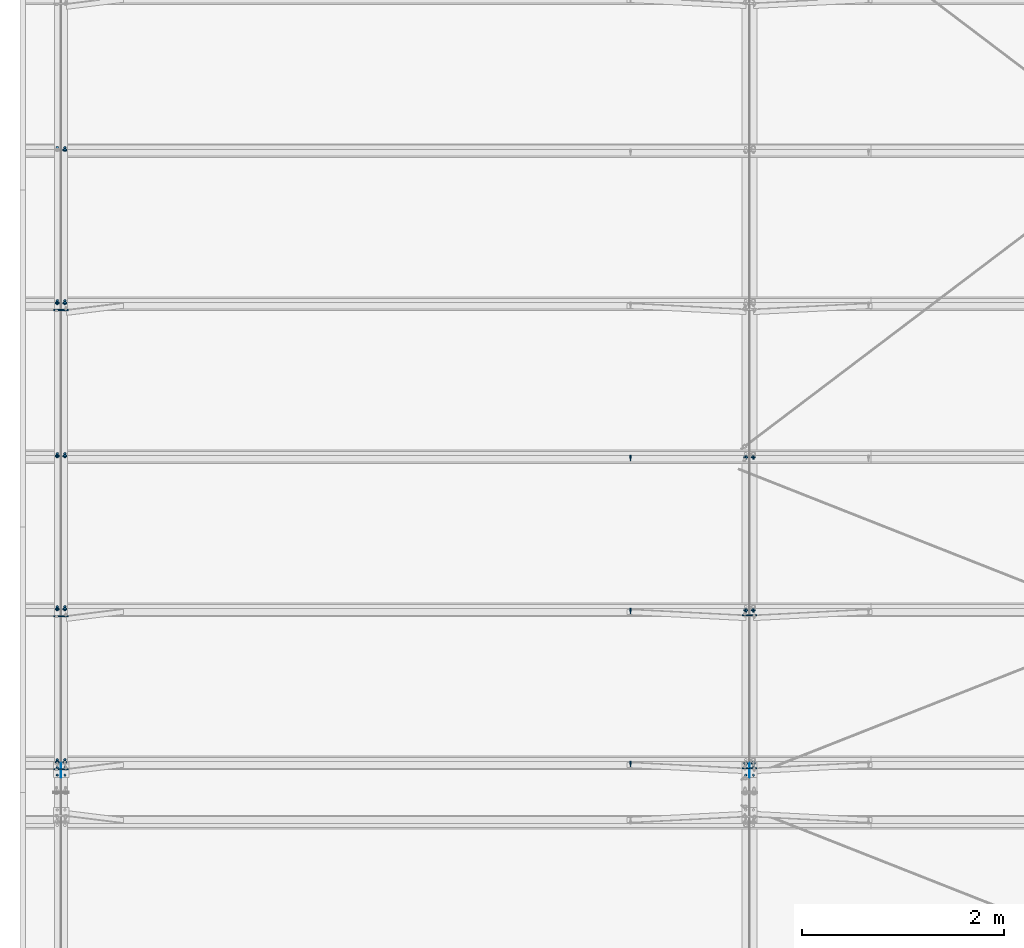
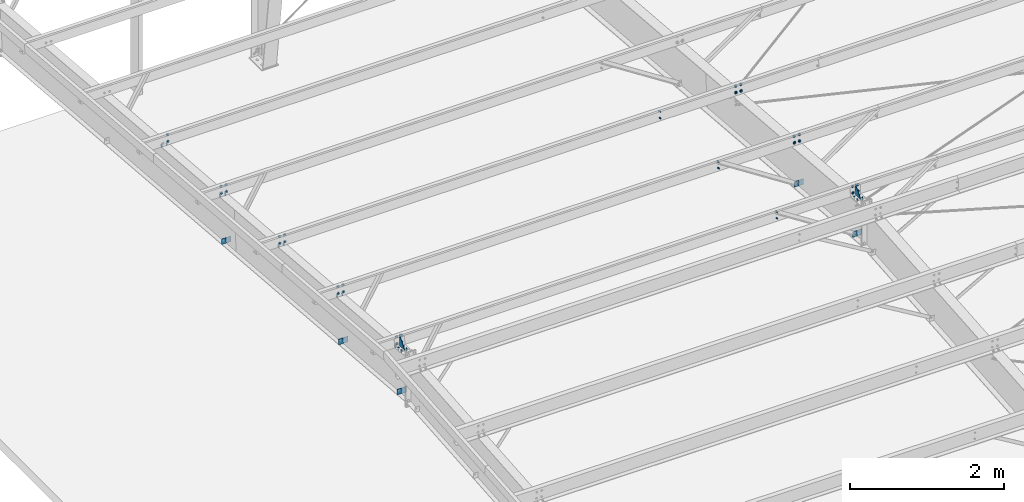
# One storey, part 80 of 185: 25 mechanical fasteners, 12 discrete accessories, 12 elements without a shape of their own.
"""IFC2X3 building model written with IfcOpenShell, lengths in millimetres."""

from ifc_helpers import new_model, si_unit, frame, origin_with_axes, origin_2d_with_axis, place, context, subcontext, project, spatial, polyline, rectangle, circle, outline, extrude, source, transform, mapped, material, type_object, element, aggregate, save


model = new_model("IFC2X3")

# Units and contexts
model_context = context("Model", 3, precision=1e-05, world=origin_with_axes())
body_context = subcontext(model_context, "Body", "Model", "MODEL_VIEW")
ifc_project = project(units=[si_unit("LENGTHUNIT", "METRE", prefix="MILLI"), si_unit("AREAUNIT", "SQUARE_METRE"), si_unit("VOLUMEUNIT", "CUBIC_METRE"), si_unit("MASSUNIT", "GRAM", prefix="KILO"), si_unit("TIMEUNIT", "SECOND"), si_unit("PLANEANGLEUNIT", "RADIAN"), si_unit("SOLIDANGLEUNIT", "STERADIAN"), si_unit("THERMODYNAMICTEMPERATUREUNIT", "DEGREE_CELSIUS"), si_unit("LUMINOUSINTENSITYUNIT", "LUMEN")], contexts=[model_context])

# Site, building, storey
site_placement = place(None, origin_with_axes())
site = spatial("IfcSite", under=ifc_project, at=site_placement, Name="Undefined", CompositionType="ELEMENT")
building_placement = place(site_placement, origin_with_axes())
building = spatial("IfcBuilding", under=site, at=building_placement, Name="Undefined", CompositionType="ELEMENT")
storey_placement = place(building_placement, origin_with_axes())
storey = spatial("IfcBuildingStorey", under=building, at=storey_placement, Name="Undefined", CompositionType="ELEMENT", Elevation=0.0)

# Assembly, mechanical fastener
assembly_1_placement = place(storey_placement, origin_with_axes())
assembly_1 = element("IfcElementAssembly", 1, at=assembly_1_placement, inside=storey, Name="Steel Assembly", AssemblyPlace="NOTDEFINED", PredefinedType="RIGID_FRAME")
ifc_material_1 = material(Name="Undefined")
discrete_accessory_type_1 = type_object("IfcDiscreteAccessoryType", Name="Bolt assembly")
shared_shape_1 = source(origin_with_axes(), body_context, "Body", "SweptSolid", [
    extrude(circle(Radius=7.14374971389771, at=origin_2d_with_axis()), frame((0.0, -1.59000001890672, 0.0), z_axis=(0.0, 1.0, 0.0), x_axis=(1.0, 0.0, 0.0)), (0.0, 0.0, 1.0), 3.3),
    extrude(circle(Radius=13.4937496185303, at=origin_2d_with_axis()), frame((0.0, -5.5587500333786, 0.0), z_axis=(0.0, 1.0, 0.0), x_axis=(1.0, 0.0, 0.0)), (0.0, 0.0, 1.0), 4.0),
    extrude(circle(Radius=22.2250003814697, at=origin_2d_with_axis()), frame((0.0, 1.5900000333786, 0.0), z_axis=(0.0, 1.0, 0.0), x_axis=(1.0, 0.0, 0.0)), (0.0, 0.0, 1.0), 7.9),
    extrude(outline(polyline([(12.8316099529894, 0.0), (6.4158049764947, 11.1125001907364), (-6.4158049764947, 11.1125001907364), (-12.8316099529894, 0.0), (-6.4158049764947, -11.1125001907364), (6.4158049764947, -11.1125001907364), (12.8316099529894, 0.0)])), frame((0.0, 9.5275000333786, 0.0), z_axis=(0.0, 1.0, 0.0), x_axis=(1.0, 0.0, 0.0)), (0.0, 0.0, 1.0), 12.3),
])
mechanical_fastener_1_placement = place(assembly_1_placement, frame((444.500000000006, 22376.470954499, 6847.3180050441), z_axis=(1.0, 0.0, 0.0), x_axis=(0.0, -0.0830454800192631, -0.996545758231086)))
mechanical_fastener_1 = element("IfcMechanicalFastener", 2, at=mechanical_fastener_1_placement, type_object=discrete_accessory_type_1, material=ifc_material_1, Name="Bolt assembly", NominalDiameter=12.6999998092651, NominalLength=38.0999984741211, context=body_context, shape_type="MappedRepresentation", body=[
    mapped(shared_shape_1, transform((0.0, 0.0, 0.0))),
    mapped(shared_shape_1, transform((101.599998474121, 0.0, 0.0))),
])

# Assembly, mechanical fasteners
assembly_2_placement = place(storey_placement, origin_with_axes())
assembly_2 = element("IfcElementAssembly", 3, at=assembly_2_placement, inside=storey, Name="Steel Assembly", AssemblyPlace="NOTDEFINED", PredefinedType="RIGID_FRAME")
mechanical_fastener_2_placement = place(assembly_2_placement, frame((444.500000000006, 20857.735218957, 6973.87931659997), z_axis=(1.0, 0.0, 0.0), x_axis=(0.0, -0.0830454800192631, -0.996545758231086)))
mechanical_fastener_2 = element("IfcMechanicalFastener", 4, at=mechanical_fastener_2_placement, type_object=discrete_accessory_type_1, material=ifc_material_1, Name="Bolt assembly", NominalDiameter=12.6999998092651, NominalLength=38.0999984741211, context=body_context, shape_type="MappedRepresentation", body=[
    mapped(shared_shape_1, transform((0.0, 0.0, 0.0))),
    mapped(shared_shape_1, transform((101.599998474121, 0.0, 0.0))),
])
mechanical_fastener_3_placement = place(assembly_2_placement, frame((368.300000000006, 20857.735218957, 6973.87931659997), z_axis=(1.0, 0.0, 0.0), x_axis=(0.0, -0.0830454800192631, -0.996545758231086)))
mechanical_fastener_3 = element("IfcMechanicalFastener", 5, at=mechanical_fastener_3_placement, type_object=discrete_accessory_type_1, material=ifc_material_1, Name="Bolt assembly", NominalDiameter=12.6999998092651, NominalLength=38.0999984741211, context=body_context, shape_type="MappedRepresentation", body=[
    mapped(shared_shape_1, transform((0.0, 0.0, 0.0))),
    mapped(shared_shape_1, transform((101.599998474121, 0.0, 0.0))),
])

assembly_3_placement = place(storey_placement, origin_with_axes())
assembly_3 = element("IfcElementAssembly", 6, at=assembly_3_placement, inside=storey, Name="Steel Assembly", AssemblyPlace="NOTDEFINED", PredefinedType="RIGID_FRAME")
mechanical_fastener_4_placement = place(assembly_3_placement, frame((444.500000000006, 19338.999483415, 7100.44062815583), z_axis=(1.0, 0.0, 0.0), x_axis=(0.0, -0.0830454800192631, -0.996545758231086)))
mechanical_fastener_4 = element("IfcMechanicalFastener", 7, at=mechanical_fastener_4_placement, type_object=discrete_accessory_type_1, material=ifc_material_1, Name="Bolt assembly", NominalDiameter=12.6999998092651, NominalLength=38.0999984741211, context=body_context, shape_type="MappedRepresentation", body=[
    mapped(shared_shape_1, transform((0.0, 0.0, 0.0))),
    mapped(shared_shape_1, transform((101.599998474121, 0.0, 0.0))),
])
mechanical_fastener_5_placement = place(assembly_3_placement, frame((368.300000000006, 19338.999483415, 7100.44062815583), z_axis=(1.0, 0.0, 0.0), x_axis=(0.0, -0.0830454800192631, -0.996545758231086)))
mechanical_fastener_5 = element("IfcMechanicalFastener", 8, at=mechanical_fastener_5_placement, type_object=discrete_accessory_type_1, material=ifc_material_1, Name="Bolt assembly", NominalDiameter=12.6999998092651, NominalLength=38.0999984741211, context=body_context, shape_type="MappedRepresentation", body=[
    mapped(shared_shape_1, transform((0.0, 0.0, 0.0))),
    mapped(shared_shape_1, transform((101.599998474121, 0.0, 0.0))),
])

assembly_4_placement = place(storey_placement, origin_with_axes())
assembly_4 = element("IfcElementAssembly", 9, at=assembly_4_placement, inside=storey, Name="Steel Assembly", AssemblyPlace="NOTDEFINED", PredefinedType="RIGID_FRAME")
mechanical_fastener_6_placement = place(assembly_4_placement, frame((444.500000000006, 17820.263747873, 7227.00193971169), z_axis=(1.0, 0.0, 0.0), x_axis=(0.0, -0.0830454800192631, -0.996545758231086)))
mechanical_fastener_6 = element("IfcMechanicalFastener", 10, at=mechanical_fastener_6_placement, type_object=discrete_accessory_type_1, material=ifc_material_1, Name="Bolt assembly", NominalDiameter=12.6999998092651, NominalLength=38.0999984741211, context=body_context, shape_type="MappedRepresentation", body=[
    mapped(shared_shape_1, transform((0.0, 0.0, 0.0))),
    mapped(shared_shape_1, transform((101.599998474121, 0.0, 0.0))),
])
mechanical_fastener_7_placement = place(assembly_4_placement, frame((368.300000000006, 17820.263747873, 7227.00193971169), z_axis=(1.0, 0.0, 0.0), x_axis=(0.0, -0.0830454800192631, -0.996545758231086)))
mechanical_fastener_7 = element("IfcMechanicalFastener", 11, at=mechanical_fastener_7_placement, type_object=discrete_accessory_type_1, material=ifc_material_1, Name="Bolt assembly", NominalDiameter=12.6999998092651, NominalLength=38.0999984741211, context=body_context, shape_type="MappedRepresentation", body=[
    mapped(shared_shape_1, transform((0.0, 0.0, 0.0))),
    mapped(shared_shape_1, transform((101.599998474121, 0.0, 0.0))),
])

assembly_5_placement = place(storey_placement, origin_with_axes())
assembly_5 = element("IfcElementAssembly", 12, at=assembly_5_placement, inside=storey, Name="Steel Assembly", AssemblyPlace="NOTDEFINED", PredefinedType="RIGID_FRAME")
mechanical_fastener_8_placement = place(assembly_5_placement, frame((444.500000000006, 16301.5280123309, 7353.56325126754), z_axis=(1.0, 0.0, 0.0), x_axis=(0.0, -0.0830454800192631, -0.996545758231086)))
mechanical_fastener_8 = element("IfcMechanicalFastener", 13, at=mechanical_fastener_8_placement, type_object=discrete_accessory_type_1, material=ifc_material_1, Name="Bolt assembly", NominalDiameter=12.6999998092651, NominalLength=38.0999984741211, context=body_context, shape_type="MappedRepresentation", body=[
    mapped(shared_shape_1, transform((0.0, 0.0, 0.0))),
    mapped(shared_shape_1, transform((101.599998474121, 0.0, 0.0))),
])
mechanical_fastener_9_placement = place(assembly_5_placement, frame((368.300000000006, 16301.5280123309, 7353.56325126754), z_axis=(1.0, 0.0, 0.0), x_axis=(0.0, -0.0830454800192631, -0.996545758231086)))
mechanical_fastener_9 = element("IfcMechanicalFastener", 14, at=mechanical_fastener_9_placement, type_object=discrete_accessory_type_1, material=ifc_material_1, Name="Bolt assembly", NominalDiameter=12.6999998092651, NominalLength=38.0999984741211, context=body_context, shape_type="MappedRepresentation", body=[
    mapped(shared_shape_1, transform((0.0, 0.0, 0.0))),
    mapped(shared_shape_1, transform((101.599998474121, 0.0, 0.0))),
])

# Assembly, mechanical fastener
assembly_6_placement = place(storey_placement, origin_with_axes())
assembly_6 = element("IfcElementAssembly", 15, at=assembly_6_placement, inside=storey, Name="Steel Assembly", AssemblyPlace="NOTDEFINED", PredefinedType="RIGID_FRAME")
mechanical_fastener_10_placement = place(assembly_6_placement, frame((7200.9, 19338.9994834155, 7100.44062811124), z_axis=(-1.0, 0.0, 0.0), x_axis=(0.0, -0.0830454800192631, -0.996545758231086)))
mechanical_fastener_10 = element("IfcMechanicalFastener", 16, at=mechanical_fastener_10_placement, type_object=discrete_accessory_type_1, material=ifc_material_1, Name="Bolt assembly", NominalDiameter=12.6999998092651, NominalLength=38.0999984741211, context=body_context, shape_type="MappedRepresentation", body=[
    mapped(shared_shape_1, transform((0.0, 0.0, 0.0))),
    mapped(shared_shape_1, transform((101.599998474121, 0.0, 0.0))),
])
aggregate(assembly_6, [mechanical_fastener_10])

# Mechanical fastener
mechanical_fastener_11_placement = place(assembly_3_placement, frame((7277.1, 19338.9994834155, 7100.44062811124), z_axis=(-1.0, 0.0, 0.0), x_axis=(0.0, -0.0830454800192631, -0.996545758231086)))
mechanical_fastener_11 = element("IfcMechanicalFastener", 17, at=mechanical_fastener_11_placement, type_object=discrete_accessory_type_1, material=ifc_material_1, Name="Bolt assembly", NominalDiameter=12.6999998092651, NominalLength=38.0999984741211, context=body_context, shape_type="MappedRepresentation", body=[
    mapped(shared_shape_1, transform((0.0, 0.0, 0.0))),
    mapped(shared_shape_1, transform((101.599998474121, 0.0, 0.0))),
])

# Assembly, mechanical fastener
assembly_7_placement = place(storey_placement, origin_with_axes())
assembly_7 = element("IfcElementAssembly", 18, at=assembly_7_placement, inside=storey, Name="Steel Assembly", AssemblyPlace="NOTDEFINED", PredefinedType="RIGID_FRAME")
mechanical_fastener_12_placement = place(assembly_7_placement, frame((7200.9, 17820.2637478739, 7227.00193965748), z_axis=(-1.0, 0.0, 0.0), x_axis=(0.0, -0.0830454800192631, -0.996545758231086)))
mechanical_fastener_12 = element("IfcMechanicalFastener", 19, at=mechanical_fastener_12_placement, type_object=discrete_accessory_type_1, material=ifc_material_1, Name="Bolt assembly", NominalDiameter=12.6999998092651, NominalLength=38.0999984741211, context=body_context, shape_type="MappedRepresentation", body=[
    mapped(shared_shape_1, transform((0.0, 0.0, 0.0))),
    mapped(shared_shape_1, transform((101.599998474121, 0.0, 0.0))),
])
aggregate(assembly_7, [mechanical_fastener_12])

# Mechanical fastener
mechanical_fastener_13_placement = place(assembly_4_placement, frame((7277.1, 17820.2637478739, 7227.00193965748), z_axis=(-1.0, 0.0, 0.0), x_axis=(0.0, -0.0830454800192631, -0.996545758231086)))
mechanical_fastener_13 = element("IfcMechanicalFastener", 20, at=mechanical_fastener_13_placement, type_object=discrete_accessory_type_1, material=ifc_material_1, Name="Bolt assembly", NominalDiameter=12.6999998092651, NominalLength=38.0999984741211, context=body_context, shape_type="MappedRepresentation", body=[
    mapped(shared_shape_1, transform((0.0, 0.0, 0.0))),
    mapped(shared_shape_1, transform((101.599998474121, 0.0, 0.0))),
])

# Assembly, mechanical fastener
assembly_8_placement = place(storey_placement, origin_with_axes())
assembly_8 = element("IfcElementAssembly", 21, at=assembly_8_placement, inside=storey, Name="Steel Assembly", AssemblyPlace="NOTDEFINED", PredefinedType="RIGID_FRAME")
mechanical_fastener_14_placement = place(assembly_8_placement, frame((7200.9, 16301.5280123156, 7353.56325121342), z_axis=(-1.0, 0.0, 0.0), x_axis=(0.0, -0.0830454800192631, -0.996545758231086)))
mechanical_fastener_14 = element("IfcMechanicalFastener", 22, at=mechanical_fastener_14_placement, type_object=discrete_accessory_type_1, material=ifc_material_1, Name="Bolt assembly", NominalDiameter=12.6999998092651, NominalLength=38.0999984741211, context=body_context, shape_type="MappedRepresentation", body=[
    mapped(shared_shape_1, transform((0.0, 0.0, 0.0))),
    mapped(shared_shape_1, transform((101.599998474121, 0.0, 0.0))),
])
aggregate(assembly_8, [mechanical_fastener_14])

# Mechanical fastener
mechanical_fastener_15_placement = place(assembly_5_placement, frame((7277.1, 16301.5280123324, 7353.56325120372), z_axis=(-1.0, 0.0, 0.0), x_axis=(0.0, -0.0830454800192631, -0.996545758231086)))
mechanical_fastener_15 = element("IfcMechanicalFastener", 23, at=mechanical_fastener_15_placement, type_object=discrete_accessory_type_1, material=ifc_material_1, Name="Bolt assembly", NominalDiameter=12.6999998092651, NominalLength=38.0999984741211, context=body_context, shape_type="MappedRepresentation", body=[
    mapped(shared_shape_1, transform((0.0, 0.0, 0.0))),
    mapped(shared_shape_1, transform((101.599998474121, 0.0, 0.0))),
])

# Assembly, discrete accessory
assembly_9_placement = place(storey_placement, origin_with_axes())
assembly_9 = element("IfcElementAssembly", 24, at=assembly_9_placement, inside=storey, Name="Steel Assembly", AssemblyPlace="NOTDEFINED", PredefinedType="RIGID_FRAME")
ifc_material_2 = material(Name="STEEL/55")
discrete_accessory_type_2 = type_object("IfcDiscreteAccessoryType", Name="PLATE")
discrete_accessory_1_placement = place(assembly_9_placement, frame((7239.0, 16150.181777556, 7219.61919675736), z_axis=(1.0, 0.0, 0.0), x_axis=(0.0, 0.996545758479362, -0.0830454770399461)))
discrete_accessory_1 = element("IfcDiscreteAccessory", 25, at=discrete_accessory_1_placement, type_object=discrete_accessory_type_2, material=ifc_material_2, Name="PLATE", ObjectType="FL1/4\"X5 1/4\"", context=body_context, shape_type="SweptSolid", body=[
    extrude(outline(polyline([(0.0, 0.0), (133.350006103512, 3.70164343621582e-10), (133.350006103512, 190.500000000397), (0.0, 0.0)])), frame((0.0, -9.09494701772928e-13, -3.2), z_axis=(0.0, 0.0, 1.0), x_axis=(1.0, 0.0, 0.0)), (0.0, 0.0, 1.0), 6.4),
])

assembly_10_placement = place(storey_placement, origin_with_axes())
assembly_10 = element("IfcElementAssembly", 26, at=assembly_10_placement, inside=storey, Name="Steel Assembly", AssemblyPlace="NOTDEFINED", PredefinedType="RIGID_FRAME")
discrete_accessory_2_placement = place(assembly_10_placement, frame((406.400000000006, 16150.1817775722, 7219.61919681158), z_axis=(1.0, 0.0, 0.0), x_axis=(0.0, 0.996545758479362, -0.0830454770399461)))
discrete_accessory_2 = element("IfcDiscreteAccessory", 27, at=discrete_accessory_2_placement, type_object=discrete_accessory_type_2, material=ifc_material_2, Name="PLATE", ObjectType="FL1/4\"X5 1/4\"", context=body_context, shape_type="SweptSolid", body=[
    extrude(outline(polyline([(0.0, 0.0), (133.350006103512, 3.70164343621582e-10), (133.350006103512, 190.500000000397), (0.0, 0.0)])), frame((0.0, -9.09494701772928e-13, -3.2), z_axis=(0.0, 0.0, 1.0), x_axis=(1.0, 0.0, 0.0)), (0.0, 0.0, 1.0), 6.4),
])

# Assembly, discrete accessories
assembly_11_placement = place(storey_placement, origin_with_axes())
assembly_11 = element("IfcElementAssembly", 28, at=assembly_11_placement, inside=storey, Name="Steel Assembly", AssemblyPlace="NOTDEFINED", PredefinedType="RIGID_FRAME")
discrete_accessory_type_3 = type_object("IfcDiscreteAccessoryType", Name="FLANGE BRACE FLIP")
discrete_accessory_3_placement = place(assembly_11_placement, frame((408.108150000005, 16234.5442340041, 6529.19086769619), z_axis=(0.0, -0.0830454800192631, -0.996545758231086), x_axis=(1.0, 0.0, 0.0)))
discrete_accessory_3 = element("IfcDiscreteAccessory", 29, at=discrete_accessory_3_placement, type_object=discrete_accessory_type_3, material=ifc_material_2, Name="FLANGE BRACE FLIP", ObjectType="PL1/8\"X2 3/4\"", context=body_context, shape_type="SweptSolid", body=[
    extrude(rectangle(XDim=3.416, YDim=85.725, at=origin_2d_with_axis()), frame((69.8499999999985, 0.0, 0.0), z_axis=(-1.0, 0.0, 0.0), x_axis=(0.0, -1.0, 0.0)), (0.0, 0.0, 1.0), 69.9),
])
discrete_accessory_4_placement = place(assembly_11_placement, frame((404.691850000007, 16234.5442340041, 6529.19086769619), z_axis=(0.0, -0.0830454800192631, -0.996545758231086), x_axis=(-1.0, 0.0, 0.0)))
discrete_accessory_4 = element("IfcDiscreteAccessory", 30, at=discrete_accessory_4_placement, type_object=discrete_accessory_type_3, material=ifc_material_2, Name="FLANGE BRACE FLIP", ObjectType="PL1/8\"X2 3/4\"", context=body_context, shape_type="SweptSolid", body=[
    extrude(rectangle(XDim=3.416, YDim=85.725, at=origin_2d_with_axis()), frame((69.8499999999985, 0.0, 0.0), z_axis=(-1.0, 0.0, 0.0), x_axis=(0.0, -1.0, 0.0)), (0.0, 0.0, 1.0), 69.9),
])
discrete_accessory_5_placement = place(assembly_11_placement, frame((408.108150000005, 17753.2799695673, 6402.62955639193), z_axis=(0.0, -0.0830454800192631, -0.996545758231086), x_axis=(1.0, 0.0, 0.0)))
discrete_accessory_5 = element("IfcDiscreteAccessory", 31, at=discrete_accessory_5_placement, type_object=discrete_accessory_type_3, material=ifc_material_2, Name="FLANGE BRACE FLIP", ObjectType="PL1/8\"X2 3/4\"", context=body_context, shape_type="SweptSolid", body=[
    extrude(rectangle(XDim=3.416, YDim=85.725, at=origin_2d_with_axis()), frame((69.8499999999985, 0.0, 0.0), z_axis=(-1.0, 0.0, 0.0), x_axis=(0.0, -1.0, 0.0)), (0.0, 0.0, 1.0), 69.9),
])
discrete_accessory_6_placement = place(assembly_11_placement, frame((404.691850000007, 17753.2799695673, 6402.62955639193), z_axis=(0.0, -0.0830454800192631, -0.996545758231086), x_axis=(-1.0, 0.0, 0.0)))
discrete_accessory_6 = element("IfcDiscreteAccessory", 32, at=discrete_accessory_6_placement, type_object=discrete_accessory_type_3, material=ifc_material_2, Name="FLANGE BRACE FLIP", ObjectType="PL1/8\"X2 3/4\"", context=body_context, shape_type="SweptSolid", body=[
    extrude(rectangle(XDim=3.416, YDim=85.725, at=origin_2d_with_axis()), frame((69.8499999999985, 0.0, 0.0), z_axis=(-1.0, 0.0, 0.0), x_axis=(0.0, -1.0, 0.0)), (0.0, 0.0, 1.0), 69.9),
])
discrete_accessory_7_placement = place(assembly_11_placement, frame((408.108150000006, 20790.7514406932, 6149.50693378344), z_axis=(0.0, -0.0830454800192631, -0.996545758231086), x_axis=(1.0, 0.0, 0.0)))
discrete_accessory_7 = element("IfcDiscreteAccessory", 33, at=discrete_accessory_7_placement, type_object=discrete_accessory_type_3, material=ifc_material_2, Name="FLANGE BRACE FLIP", ObjectType="PL1/8\"X2 3/4\"", context=body_context, shape_type="SweptSolid", body=[
    extrude(rectangle(XDim=3.416, YDim=85.725, at=origin_2d_with_axis()), frame((69.8499999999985, 0.0, 0.0), z_axis=(-1.0, 0.0, 0.0), x_axis=(0.0, -1.0, 0.0)), (0.0, 0.0, 1.0), 69.8),
])
discrete_accessory_8_placement = place(assembly_11_placement, frame((404.691850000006, 20790.7514406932, 6149.50693378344), z_axis=(0.0, -0.0830454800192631, -0.996545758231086), x_axis=(-1.0, 0.0, 0.0)))
discrete_accessory_8 = element("IfcDiscreteAccessory", 34, at=discrete_accessory_8_placement, type_object=discrete_accessory_type_3, material=ifc_material_2, Name="FLANGE BRACE FLIP", ObjectType="PL1/8\"X2 3/4\"", context=body_context, shape_type="SweptSolid", body=[
    extrude(rectangle(XDim=3.416, YDim=85.725, at=origin_2d_with_axis()), frame((69.8499999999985, 0.0, 0.0), z_axis=(-1.0, 0.0, 0.0), x_axis=(0.0, -1.0, 0.0)), (0.0, 0.0, 1.0), 69.8),
])
aggregate(assembly_11, [discrete_accessory_3, discrete_accessory_4, discrete_accessory_5, discrete_accessory_6, discrete_accessory_7, discrete_accessory_8])

assembly_12_placement = place(storey_placement, origin_with_axes())
assembly_12 = element("IfcElementAssembly", 35, at=assembly_12_placement, inside=storey, Name="Steel Assembly", AssemblyPlace="NOTDEFINED", PredefinedType="RIGID_FRAME")
discrete_accessory_9_placement = place(assembly_12_placement, frame((7237.29185, 16242.8487656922, 6628.84524772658), z_axis=(0.0, 0.0830454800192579, 0.996545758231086), x_axis=(-1.0, 0.0, 0.0)))
discrete_accessory_9 = element("IfcDiscreteAccessory", 36, at=discrete_accessory_9_placement, type_object=discrete_accessory_type_3, material=ifc_material_2, Name="FLANGE BRACE FLIP", ObjectType="PL1/8\"X2 3/4\"", context=body_context, shape_type="SweptSolid", body=[
    extrude(rectangle(XDim=3.416, YDim=85.725, at=origin_2d_with_axis()), frame((69.8499999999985, 0.0, 0.0), z_axis=(-1.0, 0.0, 0.0), x_axis=(0.0, -1.0, 0.0)), (0.0, 0.0, 1.0), 69.9),
])
discrete_accessory_10_placement = place(assembly_12_placement, frame((7240.70815, 16242.8487656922, 6628.84524772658), z_axis=(0.0, 0.0830454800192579, 0.996545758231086), x_axis=(1.0, 0.0, 0.0)))
discrete_accessory_10 = element("IfcDiscreteAccessory", 37, at=discrete_accessory_10_placement, type_object=discrete_accessory_type_3, material=ifc_material_2, Name="FLANGE BRACE FLIP", ObjectType="PL1/8\"X2 3/4\"", context=body_context, shape_type="SweptSolid", body=[
    extrude(rectangle(XDim=3.416, YDim=85.725, at=origin_2d_with_axis()), frame((69.8499999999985, 0.0, 0.0), z_axis=(-1.0, 0.0, 0.0), x_axis=(0.0, -1.0, 0.0)), (0.0, 0.0, 1.0), 69.9),
])
discrete_accessory_11_placement = place(assembly_12_placement, frame((7237.29185, 17761.584501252, 6502.28393643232), z_axis=(0.0, 0.0830454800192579, 0.996545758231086), x_axis=(-1.0, 0.0, 0.0)))
discrete_accessory_11 = element("IfcDiscreteAccessory", 38, at=discrete_accessory_11_placement, type_object=discrete_accessory_type_3, material=ifc_material_2, Name="FLANGE BRACE FLIP", ObjectType="PL1/8\"X2 3/4\"", context=body_context, shape_type="SweptSolid", body=[
    extrude(rectangle(XDim=3.416, YDim=85.725, at=origin_2d_with_axis()), frame((69.8499999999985, 0.0, 0.0), z_axis=(-1.0, 0.0, 0.0), x_axis=(0.0, -1.0, 0.0)), (0.0, 0.0, 1.0), 69.9),
])
discrete_accessory_12_placement = place(assembly_12_placement, frame((7240.70815, 17761.584501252, 6502.28393643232), z_axis=(0.0, 0.0830454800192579, 0.996545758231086), x_axis=(1.0, 0.0, 0.0)))
discrete_accessory_12 = element("IfcDiscreteAccessory", 39, at=discrete_accessory_12_placement, type_object=discrete_accessory_type_3, material=ifc_material_2, Name="FLANGE BRACE FLIP", ObjectType="PL1/8\"X2 3/4\"", context=body_context, shape_type="SweptSolid", body=[
    extrude(rectangle(XDim=3.416, YDim=85.725, at=origin_2d_with_axis()), frame((69.8499999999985, 0.0, 0.0), z_axis=(-1.0, 0.0, 0.0), x_axis=(0.0, -1.0, 0.0)), (0.0, 0.0, 1.0), 69.9),
])
aggregate(assembly_12, [discrete_accessory_9, discrete_accessory_10, discrete_accessory_11, discrete_accessory_12])

# Mechanical fastener
shared_shape_2 = source(origin_with_axes(), body_context, "Body", "SweptSolid", [
    extrude(circle(Radius=7.14374971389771, at=origin_2d_with_axis()), frame((0.0, -0.0238014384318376, 0.0), z_axis=(0.0, 1.0, 0.0), x_axis=(1.0, 0.0, 0.0)), (0.0, 0.0, 1.0), 8.0),
    extrude(circle(Radius=7.14374971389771, at=origin_2d_with_axis()), frame((0.0, -6.24999999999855, 0.0), z_axis=(0.0, 1.0, 0.0), x_axis=(1.0, 0.0, 0.0)), (0.0, 0.0, 1.0), 6.4),
    extrude(outline(polyline([(10.9985221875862, 0.0), (5.4992610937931, 9.52499961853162), (-5.4992610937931, 9.52499961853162), (-10.9985221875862, 0.0), (-5.4992610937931, -9.52499961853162), (5.4992610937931, -9.52499961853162), (10.9985221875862, 0.0)])), frame((0.0, -15.8750000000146, 0.0), z_axis=(0.0, 1.0, 0.0), x_axis=(1.0, 0.0, 0.0)), (0.0, 0.0, 1.0), 9.5),
    extrude(circle(Radius=6.34999990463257, at=origin_2d_with_axis()), frame((0.0, -6.34999953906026, 0.0), z_axis=(0.0, 1.0, 0.0), x_axis=(1.0, 0.0, 0.0)), (0.0, 0.0, 1.0), 38.1),
    extrude(outline(polyline([(12.8316099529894, 0.0), (6.4158049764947, 11.1125001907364), (-6.4158049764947, 11.1125001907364), (-12.8316099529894, 0.0), (-6.4158049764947, -11.1125001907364), (6.4158049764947, -11.1125001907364), (12.8316099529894, 0.0)])), frame((0.0, 7.95019856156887, 0.0), z_axis=(0.0, 1.0, 0.0), x_axis=(1.0, 0.0, 0.0)), (0.0, 0.0, 1.0), 12.3),
])
mechanical_fastener_16_placement = place(assembly_9_placement, frame((7239.0, 16250.9034877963, 7204.85371043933), z_axis=(1.0, 0.0, 0.0), x_axis=(0.0, -0.996545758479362, 0.0830454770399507)))
mechanical_fastener_16 = element("IfcMechanicalFastener", 40, at=mechanical_fastener_16_placement, type_object=discrete_accessory_type_1, material=ifc_material_1, Name="Bolt assembly", NominalDiameter=12.6999998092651, NominalLength=38.0999984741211, context=body_context, shape_type="MappedRepresentation", body=[
    mapped(shared_shape_2, transform((0.0, 0.0, -38.0999984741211))),
    mapped(shared_shape_2, transform((76.1999969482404, -1.38243194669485e-10, -38.0999984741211))),
    mapped(shared_shape_2, transform((0.0, 0.0, 38.0999984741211))),
    mapped(shared_shape_2, transform((76.1999969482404, -1.38243194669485e-10, 38.0999984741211))),
])

aggregate(assembly_9, [mechanical_fastener_16, discrete_accessory_1])

shared_shape_3 = source(origin_with_axes(), body_context, "Body", "SweptSolid", [
    extrude(circle(Radius=7.14374971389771, at=origin_2d_with_axis()), frame((0.0, -1.4900000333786, 0.0), z_axis=(0.0, 1.0, 0.0), x_axis=(1.0, 0.0, 0.0)), (0.0, 0.0, 1.0), 3.2),
    extrude(circle(Radius=7.14374971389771, at=origin_2d_with_axis()), frame((0.0, -1.4900000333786, 0.0), z_axis=(0.0, 1.0, 0.0), x_axis=(1.0, 0.0, 0.0)), (0.0, 0.0, 1.0), 3.2),
    extrude(outline(polyline([(10.9985221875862, 0.0), (5.4992610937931, 9.52499961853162), (-5.4992610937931, 9.52499961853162), (-10.9985221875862, 0.0), (-5.4992610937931, -9.52499961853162), (5.4992610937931, -9.52499961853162), (10.9985221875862, 0.0)])), frame((0.0, -11.1149996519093, 0.0), z_axis=(0.0, 1.0, 0.0), x_axis=(1.0, 0.0, 0.0)), (0.0, 0.0, 1.0), 9.5),
    extrude(circle(Radius=6.34999990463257, at=origin_2d_with_axis()), frame((0.0, -1.59000001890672, 0.0), z_axis=(0.0, 1.0, 0.0), x_axis=(1.0, 0.0, 0.0)), (0.0, 0.0, 1.0), 38.1),
    extrude(outline(polyline([(12.8316099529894, 0.0), (6.4158049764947, 11.1125001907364), (-6.4158049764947, 11.1125001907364), (-12.8316099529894, 0.0), (-6.4158049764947, -11.1125001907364), (6.4158049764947, -11.1125001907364), (12.8316099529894, 0.0)])), frame((0.0, 1.5900000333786, 0.0), z_axis=(0.0, 1.0, 0.0), x_axis=(1.0, 0.0, 0.0)), (0.0, 0.0, 1.0), 12.3),
])
mechanical_fastener_17_placement = place(assembly_5_placement, frame((6057.9, 16301.5280123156, 7353.56325121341), z_axis=(-1.0, 0.0, 0.0), x_axis=(0.0, -0.0830454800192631, -0.996545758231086)))
mechanical_fastener_17 = element("IfcMechanicalFastener", 41, at=mechanical_fastener_17_placement, type_object=discrete_accessory_type_1, material=ifc_material_1, Name="Bolt assembly", NominalDiameter=12.6999998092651, NominalLength=38.0999984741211, context=body_context, shape_type="MappedRepresentation", body=[
    mapped(shared_shape_3, transform((0.0, 0.0, 0.0))),
    mapped(shared_shape_3, transform((101.599998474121, 0.0, 0.0))),
])

mechanical_fastener_18_placement = place(assembly_4_placement, frame((6057.9, 17820.2637478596, 7227.0019396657), z_axis=(-1.0, 0.0, 0.0), x_axis=(0.0, -0.0830454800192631, -0.996545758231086)))
mechanical_fastener_18 = element("IfcMechanicalFastener", 42, at=mechanical_fastener_18_placement, type_object=discrete_accessory_type_1, material=ifc_material_1, Name="Bolt assembly", NominalDiameter=12.6999998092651, NominalLength=38.0999984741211, context=body_context, shape_type="MappedRepresentation", body=[
    mapped(shared_shape_3, transform((0.0, 0.0, 0.0))),
    mapped(shared_shape_3, transform((101.599998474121, 0.0, 0.0))),
])

mechanical_fastener_19_placement = place(assembly_3_placement, frame((6057.9, 19338.9994834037, 7100.44062811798), z_axis=(-1.0, 0.0, 0.0), x_axis=(0.0, -0.0830454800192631, -0.996545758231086)))
mechanical_fastener_19 = element("IfcMechanicalFastener", 43, at=mechanical_fastener_19_placement, type_object=discrete_accessory_type_1, material=ifc_material_1, Name="Bolt assembly", NominalDiameter=12.6999998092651, NominalLength=38.0999984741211, context=body_context, shape_type="MappedRepresentation", body=[
    mapped(shared_shape_3, transform((0.0, 0.0, 0.0))),
    mapped(shared_shape_3, transform((101.599998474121, 0.0, 0.0))),
])

shared_shape_4 = source(origin_with_axes(), body_context, "Body", "SweptSolid", [
    extrude(circle(Radius=7.14374971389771, at=origin_2d_with_axis()), frame((0.0, -0.1, 0.0), z_axis=(0.0, 1.0, 0.0), x_axis=(1.0, 0.0, 0.0)), (0.0, 0.0, 1.0), 6.5),
    extrude(circle(Radius=7.14374971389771, at=origin_2d_with_axis()), frame((0.0, -6.24999999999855, 0.0), z_axis=(0.0, 1.0, 0.0), x_axis=(1.0, 0.0, 0.0)), (0.0, 0.0, 1.0), 6.4),
    extrude(outline(polyline([(10.9985221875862, 0.0), (5.4992610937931, 9.52499961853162), (-5.4992610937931, 9.52499961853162), (-10.9985221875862, 0.0), (-5.4992610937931, -9.52499961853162), (5.4992610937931, -9.52499961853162), (10.9985221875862, 0.0)])), frame((0.0, -15.8750000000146, 0.0), z_axis=(0.0, 1.0, 0.0), x_axis=(1.0, 0.0, 0.0)), (0.0, 0.0, 1.0), 9.5),
    extrude(circle(Radius=6.34999990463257, at=origin_2d_with_axis()), frame((0.0, -6.34999953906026, 0.0), z_axis=(0.0, 1.0, 0.0), x_axis=(1.0, 0.0, 0.0)), (0.0, 0.0, 1.0), 38.1),
    extrude(outline(polyline([(12.8316099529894, 0.0), (6.4158049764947, 11.1125001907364), (-6.4158049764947, 11.1125001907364), (-12.8316099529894, 0.0), (-6.4158049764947, -11.1125001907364), (6.4158049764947, -11.1125001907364), (12.8316099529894, 0.0)])), frame((0.0, 6.35000000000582, 0.0), z_axis=(0.0, 1.0, 0.0), x_axis=(1.0, 0.0, 0.0)), (0.0, 0.0, 1.0), 12.3),
])
mechanical_fastener_20_placement = place(assembly_10_placement, frame((406.400000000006, 16250.9034878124, 7204.85371049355), z_axis=(1.0, 0.0, 0.0), x_axis=(0.0, -0.996545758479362, 0.0830454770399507)))
mechanical_fastener_20 = element("IfcMechanicalFastener", 44, at=mechanical_fastener_20_placement, type_object=discrete_accessory_type_1, material=ifc_material_1, Name="Bolt assembly", NominalDiameter=12.6999998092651, NominalLength=38.0999984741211, context=body_context, shape_type="MappedRepresentation", body=[
    mapped(shared_shape_4, transform((0.0, 0.0, -38.0999984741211))),
    mapped(shared_shape_4, transform((76.1999969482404, -1.38243194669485e-10, -38.0999984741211))),
    mapped(shared_shape_4, transform((0.0, 0.0, 38.0999984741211))),
    mapped(shared_shape_4, transform((76.1999969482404, -1.38243194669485e-10, 38.0999984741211))),
])

aggregate(assembly_10, [mechanical_fastener_20, discrete_accessory_2])

shared_shape_5 = source(origin_with_axes(), body_context, "Body", "SweptSolid", [
    extrude(circle(Radius=7.14374971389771, at=origin_2d_with_axis()), frame((0.0, -0.1, 0.0), z_axis=(0.0, 1.0, 0.0), x_axis=(1.0, 0.0, 0.0)), (0.0, 0.0, 1.0), 6.5),
    extrude(circle(Radius=7.14374971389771, at=origin_2d_with_axis()), frame((0.0, -3.08000006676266, 0.0), z_axis=(0.0, 1.0, 0.0), x_axis=(1.0, 0.0, 0.0)), (0.0, 0.0, 1.0), 3.2),
    extrude(outline(polyline([(10.9985221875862, 0.0), (5.4992610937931, 9.52499961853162), (-5.4992610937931, 9.52499961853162), (-10.9985221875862, 0.0), (-5.4992610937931, -9.52499961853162), (5.4992610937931, -9.52499961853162), (10.9985221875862, 0.0)])), frame((0.0, -16.6737496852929, 0.0), z_axis=(0.0, 1.0, 0.0), x_axis=(1.0, 0.0, 0.0)), (0.0, 0.0, 1.0), 9.5),
    extrude(circle(Radius=6.34999990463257, at=origin_2d_with_axis()), frame((0.0, -7.14875006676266, 0.0), z_axis=(0.0, 1.0, 0.0), x_axis=(1.0, 0.0, 0.0)), (0.0, 0.0, 1.0), 38.1),
    extrude(circle(Radius=13.4937496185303, at=origin_2d_with_axis()), frame((0.0, -7.14875006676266, 0.0), z_axis=(0.0, 1.0, 0.0), x_axis=(1.0, 0.0, 0.0)), (0.0, 0.0, 1.0), 4.0),
    extrude(outline(polyline([(12.8316099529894, 0.0), (6.4158049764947, 11.1125001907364), (-6.4158049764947, 11.1125001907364), (-12.8316099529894, 0.0), (-6.4158049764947, -11.1125001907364), (6.4158049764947, -11.1125001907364), (12.8316099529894, 0.0)])), frame((0.0, 6.35000000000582, 0.0), z_axis=(0.0, 1.0, 0.0), x_axis=(1.0, 0.0, 0.0)), (0.0, 0.0, 1.0), 12.3),
])
mechanical_fastener_21_placement = place(assembly_1_placement, frame((406.400000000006, 22401.7832167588, 6692.28039870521), z_axis=(-1.0, 0.0, 0.0), x_axis=(0.0, 0.996545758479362, -0.0830454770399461)))
mechanical_fastener_21 = element("IfcMechanicalFastener", 45, at=mechanical_fastener_21_placement, type_object=discrete_accessory_type_1, material=ifc_material_1, Name="Bolt assembly", NominalDiameter=12.6999998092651, NominalLength=38.0999984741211, context=body_context, shape_type="MappedRepresentation", body=[
    mapped(shared_shape_5, transform((0.0, 0.0, -38.0999984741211))),
    mapped(shared_shape_5, transform((0.0, 0.0, 38.0999984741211))),
])

aggregate(assembly_1, [mechanical_fastener_21, mechanical_fastener_1])

mechanical_fastener_22_placement = place(assembly_2_placement, frame((406.400000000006, 20883.0474812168, 6818.84171026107), z_axis=(-1.0, 0.0, 0.0), x_axis=(0.0, 0.996545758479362, -0.0830454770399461)))
mechanical_fastener_22 = element("IfcMechanicalFastener", 46, at=mechanical_fastener_22_placement, type_object=discrete_accessory_type_1, material=ifc_material_1, Name="Bolt assembly", NominalDiameter=12.6999998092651, NominalLength=38.0999984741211, context=body_context, shape_type="MappedRepresentation", body=[
    mapped(shared_shape_5, transform((0.0, 0.0, -38.0999984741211))),
    mapped(shared_shape_5, transform((0.0, 0.0, 38.0999984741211))),
])

aggregate(assembly_2, [mechanical_fastener_22, mechanical_fastener_2, mechanical_fastener_3])

mechanical_fastener_23_placement = place(assembly_4_placement, frame((406.400000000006, 17845.5760101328, 7071.9643333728), z_axis=(-1.0, 0.0, 0.0), x_axis=(0.0, 0.996545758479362, -0.0830454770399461)))
mechanical_fastener_23 = element("IfcMechanicalFastener", 47, at=mechanical_fastener_23_placement, type_object=discrete_accessory_type_1, material=ifc_material_1, Name="Bolt assembly", NominalDiameter=12.6999998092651, NominalLength=38.0999984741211, context=body_context, shape_type="MappedRepresentation", body=[
    mapped(shared_shape_5, transform((0.0, 0.0, -38.0999984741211))),
    mapped(shared_shape_5, transform((0.0, 0.0, 38.0999984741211))),
])

aggregate(assembly_4, [mechanical_fastener_18, mechanical_fastener_23, mechanical_fastener_6, mechanical_fastener_7, mechanical_fastener_13])

mechanical_fastener_24_placement = place(assembly_5_placement, frame((406.400000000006, 16326.8402745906, 7198.52564492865), z_axis=(-1.0, 0.0, 0.0), x_axis=(0.0, 0.996545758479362, -0.0830454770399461)))
mechanical_fastener_24 = element("IfcMechanicalFastener", 48, at=mechanical_fastener_24_placement, type_object=discrete_accessory_type_1, material=ifc_material_1, Name="Bolt assembly", NominalDiameter=12.6999998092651, NominalLength=38.0999984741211, context=body_context, shape_type="MappedRepresentation", body=[
    mapped(shared_shape_5, transform((0.0, 0.0, -38.0999984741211))),
    mapped(shared_shape_5, transform((0.0, 0.0, 38.0999984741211))),
])

aggregate(assembly_5, [mechanical_fastener_17, mechanical_fastener_24, mechanical_fastener_8, mechanical_fastener_9, mechanical_fastener_15])

shared_shape_6 = source(origin_with_axes(), body_context, "Body", "SweptSolid", [
    extrude(circle(Radius=7.14374971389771, at=origin_2d_with_axis()), frame((0.0, -0.1, 0.0), z_axis=(0.0, 1.0, 0.0), x_axis=(1.0, 0.0, 0.0)), (0.0, 0.0, 1.0), 6.4),
    extrude(circle(Radius=7.14374971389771, at=origin_2d_with_axis()), frame((0.0, -3.08000006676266, 0.0), z_axis=(0.0, 1.0, 0.0), x_axis=(1.0, 0.0, 0.0)), (0.0, 0.0, 1.0), 3.2),
    extrude(outline(polyline([(10.9985221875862, 0.0), (5.4992610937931, 9.52499961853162), (-5.4992610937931, 9.52499961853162), (-10.9985221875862, 0.0), (-5.4992610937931, -9.52499961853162), (5.4992610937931, -9.52499961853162), (10.9985221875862, 0.0)])), frame((0.0, -16.6737496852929, 0.0), z_axis=(0.0, 1.0, 0.0), x_axis=(1.0, 0.0, 0.0)), (0.0, 0.0, 1.0), 9.5),
    extrude(circle(Radius=6.34999990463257, at=origin_2d_with_axis()), frame((0.0, -7.14875006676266, 0.0), z_axis=(0.0, 1.0, 0.0), x_axis=(1.0, 0.0, 0.0)), (0.0, 0.0, 1.0), 38.1),
    extrude(circle(Radius=13.4937496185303, at=origin_2d_with_axis()), frame((0.0, -7.14875006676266, 0.0), z_axis=(0.0, 1.0, 0.0), x_axis=(1.0, 0.0, 0.0)), (0.0, 0.0, 1.0), 4.0),
    extrude(outline(polyline([(12.8316099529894, 0.0), (6.4158049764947, 11.1125001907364), (-6.4158049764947, 11.1125001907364), (-12.8316099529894, 0.0), (-6.4158049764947, -11.1125001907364), (6.4158049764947, -11.1125001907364), (12.8316099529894, 0.0)])), frame((0.0, 6.35000000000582, 0.0), z_axis=(0.0, 1.0, 0.0), x_axis=(1.0, 0.0, 0.0)), (0.0, 0.0, 1.0), 12.3),
])
mechanical_fastener_25_placement = place(assembly_3_placement, frame((406.400000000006, 19364.3117456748, 6945.40302181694), z_axis=(-1.0, 0.0, 0.0), x_axis=(0.0, 0.996545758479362, -0.0830454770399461)))
mechanical_fastener_25 = element("IfcMechanicalFastener", 49, at=mechanical_fastener_25_placement, type_object=discrete_accessory_type_1, material=ifc_material_1, Name="Bolt assembly", NominalDiameter=12.6999998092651, NominalLength=38.0999984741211, context=body_context, shape_type="MappedRepresentation", body=[
    mapped(shared_shape_6, transform((0.0, 0.0, -38.0999984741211))),
    mapped(shared_shape_6, transform((0.0, 0.0, 38.0999984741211))),
])

aggregate(assembly_3, [mechanical_fastener_19, mechanical_fastener_25, mechanical_fastener_4, mechanical_fastener_5, mechanical_fastener_11])

save(model, "model.ifc")
